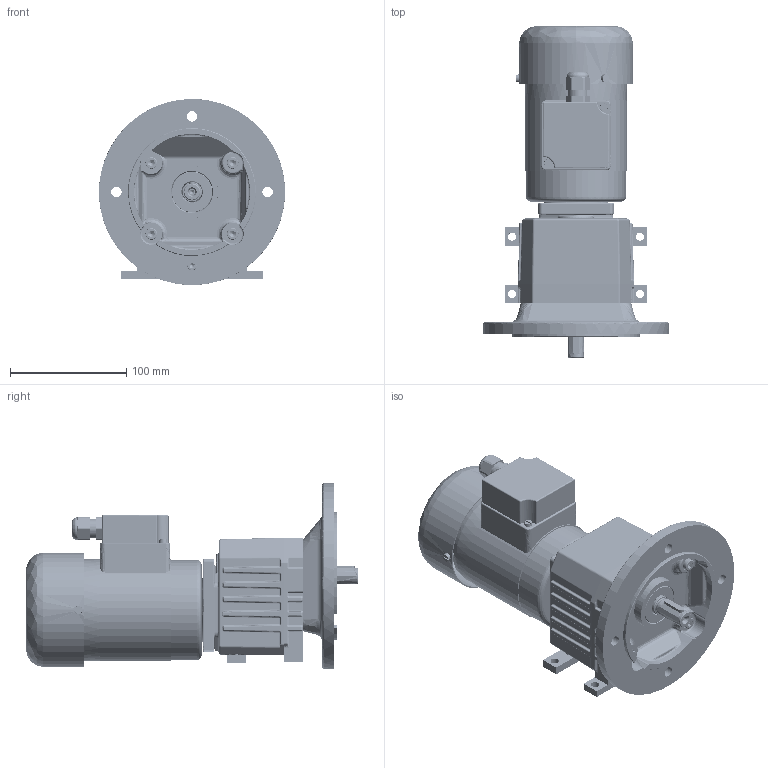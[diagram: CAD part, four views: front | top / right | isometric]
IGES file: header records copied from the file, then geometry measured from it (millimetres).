
Global section: file name: G239_G269-03-4_B3B5_KK_C; native system: unknown; preprocessor: unknown; author: unknown; organization: unknown; date: 20220204.140548; units: millimetre
Bounding box: 160 x 285.4 x 160 mm (x, y, z)
Volume: 1477080.7 mm3; surface area: 355655.7 mm2
Topology: 91 solids, 96 shells, 3174 faces, 8185 edges, 5184 vertices
Faces by surface type: bspline 3174
